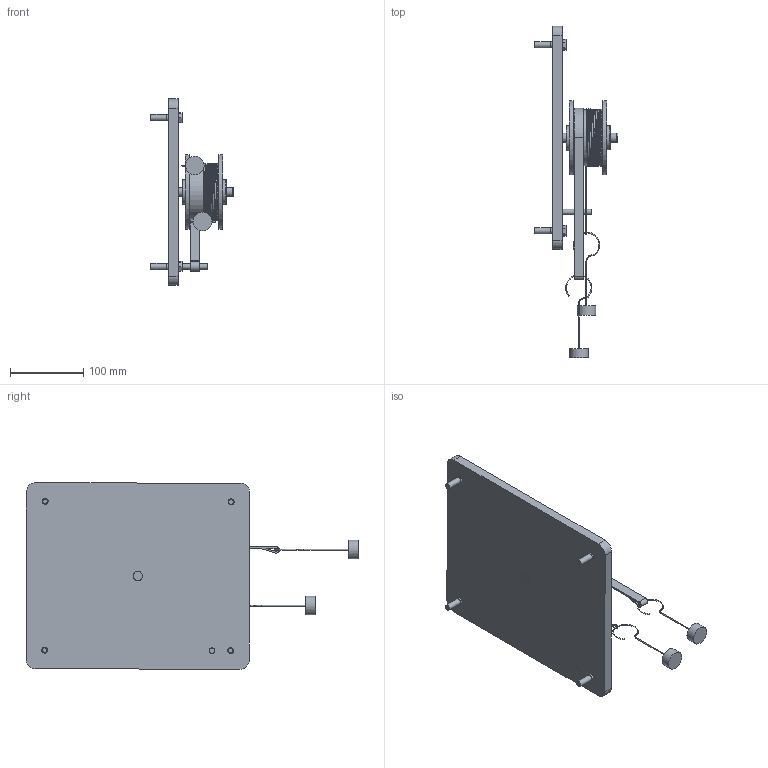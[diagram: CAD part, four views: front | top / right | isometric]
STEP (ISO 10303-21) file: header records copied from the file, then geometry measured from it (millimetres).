
FILE_DESCRIPTION(/* description */ (''),/* implementation_level */ '2;1');
FILE_NAME(/* name */ 'E:\Learning Inventor\Shamim Boss''s Project\Final Assembly.stp',/* time_stamp */ '2016-01-23T00:53:30+06:00',/* author */ ('Black Falcon'),/* organization */ (''),/* preprocessor_version */ 'ST-DEVELOPER v16.1',/* originating_system */ 'Autodesk Inventor 2016',/* authorisation */ '');
FILE_SCHEMA (('AUTOMOTIVE_DESIGN { 1 0 10303 214 3 1 1 }'));
Products named in the file (11): 1. Disc; 6. Board; 7. Rod; 8.Belt Pin; 9. Long Belt; 5. Hook; 10. Ribbon; ANSI_ASME B18.2.1 - 5_16-18 UNC - 1.5(2); SKFRLS 4 AANSI; Bearing3; Final Assembly
Assembly tree (15 placements, depth 3):
  Final Assembly
    1. Disc
    6. Board
    7. Rod
    8.Belt Pin
    9. Long Belt
    5. Hook  x2
    10. Ribbon
    ANSI_ASME B18.2.1 - 5_16-18 UNC - 1.5(2)  x4
    Bearing3  x2
      SKFRLS 4 AANSI
Bounding box: 114.3 x 453.39 x 254.86 mm (x, y, z)
Volume: 1264728.7 mm3; surface area: 259557.2 mm2
Topology: 14 solids, 14 shells, 1158 faces, 2815 edges, 1713 vertices
Faces by surface type: bspline 416, plane 382, cylinder 273, torus 43, cone 32, sphere 12
Full cylindrical faces by diameter (mm): 1.27 x6, 6.401 x4, 7.62 x2, 7.938 x4, 8.23 x4, 12.7 x8, 19.304 x4, 25.4 x2, 26.733 x4, 33.337 x2, 33.35 x1, 76.2 x1, 101.6 x2
Entity records: 42539 total; most frequent: CARTESIAN_POINT 21070, ORIENTED_EDGE 4886, DIRECTION 3324, EDGE_CURVE 2443, VERTEX_POINT 1504, LINE 1208, VECTOR 1208, EDGE_LOOP 1149
